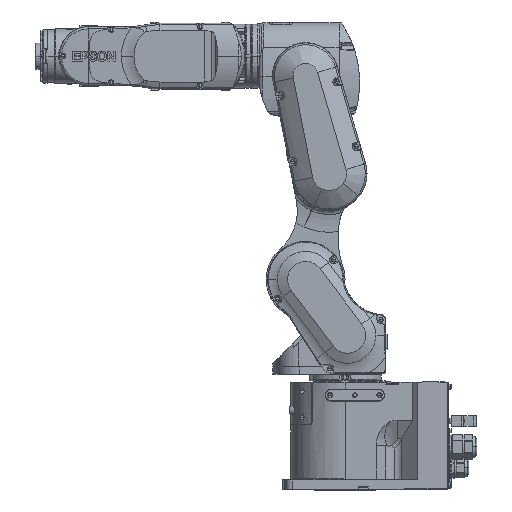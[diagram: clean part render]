
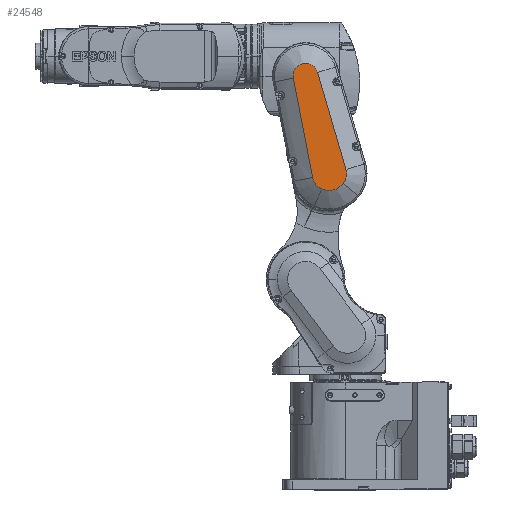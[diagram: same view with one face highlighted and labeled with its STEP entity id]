
A CAD part, top view. The second image highlights one B-rep face of the part: STEP entity #24548.
In plain terms, the highlighted planar face has unit normal (0, 0, 1).
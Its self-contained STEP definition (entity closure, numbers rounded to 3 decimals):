
#1367 = ORIENTED_EDGE ( 'NONE', *, *, #35026, .T. ) ;
#3483 = EDGE_CURVE ( 'NONE', #15554, #74186, #41302, .T. ) ;
#5310 = DIRECTION ( 'NONE',  ( 0., 0., 1. ) ) ;
#10393 = VECTOR ( 'NONE', #20196, 1000. ) ;
#10796 = DIRECTION ( 'NONE',  ( -1., 0., 0. ) ) ;
#14343 = CARTESIAN_POINT ( 'NONE',  ( 57.055, 145.739, 110. ) ) ;
#15554 = VERTEX_POINT ( 'NONE', #14343 ) ;
#17446 = DIRECTION ( 'NONE',  ( -0.407, -0.914, 0. ) ) ;
#20196 = DIRECTION ( 'NONE',  ( -0.982, -0.191, 0. ) ) ;
#24548 = ADVANCED_FACE ( 'NONE', ( #46840 ), #72123, .F. ) ;
#24812 = DIRECTION ( 'NONE',  ( 0., 0., -1. ) ) ;
#25972 = DIRECTION ( 'NONE',  ( 0.777, -0.629, 0. ) ) ;
#26114 = EDGE_CURVE ( 'NONE', #117734, #152327, #89089, .T. ) ;
#26744 = ORIENTED_EDGE ( 'NONE', *, *, #53394, .T. ) ;
#27117 = DIRECTION ( 'NONE',  ( -0.281, 0.96, 0. ) ) ;
#30639 = ORIENTED_EDGE ( 'NONE', *, *, #26114, .T. ) ;
#30854 = CARTESIAN_POINT ( 'NONE',  ( -18.641, 306.382, 110. ) ) ;
#31115 = EDGE_LOOP ( 'NONE', ( #72895, #87810, #30639, #1367, #46126, #160239, #26744 ) ) ;
#31315 = CARTESIAN_POINT ( 'NONE',  ( 35.69, 163.04, 110. ) ) ;
#35026 = EDGE_CURVE ( 'NONE', #152327, #109307, #82943, .T. ) ;
#41214 = CARTESIAN_POINT ( 'NONE',  ( 34.266, 159.843, 110. ) ) ;
#41302 = CIRCLE ( 'NONE', #116903, 23.991 ) ;
#44088 = CIRCLE ( 'NONE', #135230, 27.491 ) ;
#45141 = CARTESIAN_POINT ( 'NONE',  ( 0.003, 309.993, 110. ) ) ;
#45522 = VECTOR ( 'NONE', #98872, 1000. ) ;
#46126 = ORIENTED_EDGE ( 'NONE', *, *, #57464, .T. ) ;
#46840 = FACE_OUTER_BOUND ( 'NONE', #31115, .T. ) ;
#50742 = LINE ( 'NONE', #149496, #67909 ) ;
#53394 = EDGE_CURVE ( 'NONE', #74186, #101964, #50742, .T. ) ;
#53712 = CIRCLE ( 'NONE', #100543, 18.991 ) ;
#56796 = AXIS2_PLACEMENT_3D ( 'NONE', #41214, #5310, #127697 ) ;
#57464 = EDGE_CURVE ( 'NONE', #109307, #15554, #44088, .T. ) ;
#60551 = DIRECTION ( 'NONE',  ( 0., 0., 1. ) ) ;
#61408 = CARTESIAN_POINT ( 'NONE',  ( -18.644, 306.381, 110. ) ) ;
#61825 = DIRECTION ( 'NONE',  ( 0., 0., 1. ) ) ;
#67909 = VECTOR ( 'NONE', #27117, 1000. ) ;
#72123 = PLANE ( 'NONE',  #152312 ) ;
#72895 = ORIENTED_EDGE ( 'NONE', *, *, #130383, .T. ) ;
#74186 = VERTEX_POINT ( 'NONE', #86488 ) ;
#74549 = DIRECTION ( 'NONE',  ( 0., -1., 0. ) ) ;
#82943 = CIRCLE ( 'NONE', #56796, 23.991 ) ;
#86488 = CARTESIAN_POINT ( 'NONE',  ( 61.437, 167.571, 110. ) ) ;
#87810 = ORIENTED_EDGE ( 'NONE', *, *, #136472, .T. ) ;
#89089 = LINE ( 'NONE', #138833, #45522 ) ;
#94397 = VERTEX_POINT ( 'NONE', #99864 ) ;
#98872 = DIRECTION ( 'NONE',  ( 0.191, -0.982, 0. ) ) ;
#98936 = CARTESIAN_POINT ( 'NONE',  ( 18.231, 315.323, 110. ) ) ;
#99864 = CARTESIAN_POINT ( 'NONE',  ( -18.641, 306.382, 110. ) ) ;
#100543 = AXIS2_PLACEMENT_3D ( 'NONE', #45141, #60551, #10796 ) ;
#101964 = VERTEX_POINT ( 'NONE', #98936 ) ;
#109307 = VERTEX_POINT ( 'NONE', #128089 ) ;
#112419 = CARTESIAN_POINT ( 'NONE',  ( 38.41, 160.837, 110. ) ) ;
#116174 = DIRECTION ( 'NONE',  ( 0., 0., 1. ) ) ;
#116903 = AXIS2_PLACEMENT_3D ( 'NONE', #112419, #61825, #25972 ) ;
#117734 = VERTEX_POINT ( 'NONE', #61408 ) ;
#127697 = DIRECTION ( 'NONE',  ( -0.982, -0.191, 0. ) ) ;
#128089 = CARTESIAN_POINT ( 'NONE',  ( 24.508, 137.926, 110. ) ) ;
#128755 = LINE ( 'NONE', #30854, #10393 ) ;
#130383 = EDGE_CURVE ( 'NONE', #101964, #94397, #53712, .T. ) ;
#135230 = AXIS2_PLACEMENT_3D ( 'NONE', #31315, #116174, #17446 ) ;
#136472 = EDGE_CURVE ( 'NONE', #94397, #117734, #128755, .T. ) ;
#136526 = CARTESIAN_POINT ( 'NONE',  ( 24.508, 137.926, 110. ) ) ;
#138833 = CARTESIAN_POINT ( 'NONE',  ( -18.644, 306.381, 110. ) ) ;
#149496 = CARTESIAN_POINT ( 'NONE',  ( 61.437, 167.571, 110. ) ) ;
#152312 = AXIS2_PLACEMENT_3D ( 'NONE', #136526, #24812, #74549 ) ;
#152327 = VERTEX_POINT ( 'NONE', #156918 ) ;
#156918 = CARTESIAN_POINT ( 'NONE',  ( 10.716, 155.267, 110. ) ) ;
#160239 = ORIENTED_EDGE ( 'NONE', *, *, #3483, .T. ) ;
